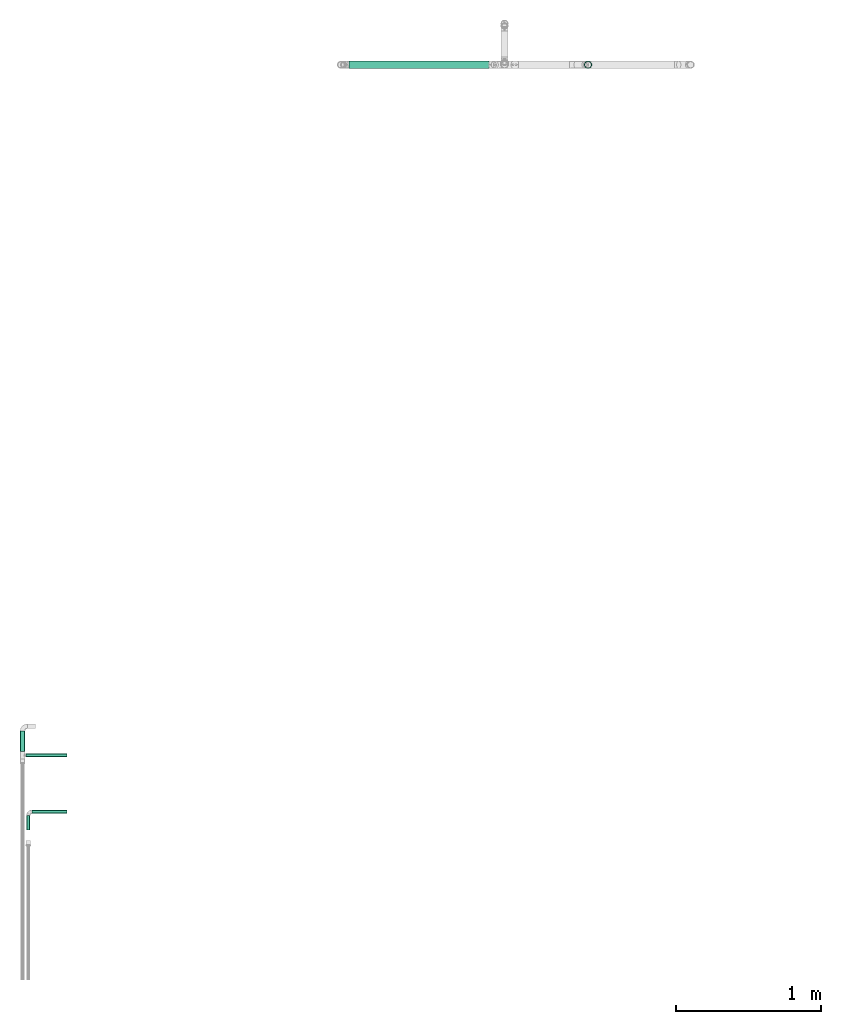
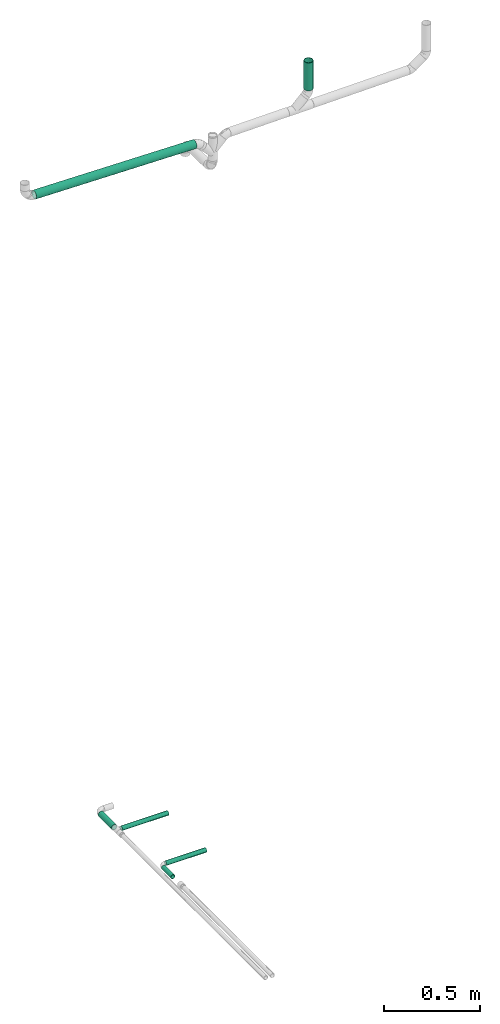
# One storey, part 1 of 13: 6 flow segments.
"""IFC2X3 building model written with IfcOpenShell, lengths in millimetres."""

from ifc_helpers import new_model, entity, si_unit, converted_unit, derived_unit, direction, frame, origin_with_axes, origin_2d_with_axis, place, context, subcontext, project, spatial, hollow_circle, extrude, source, transform, mapped, type_object, element, save


model = new_model("IFC2X3")

# Units and contexts
model_context = context("Model", 3, precision=0.01, world=frame((0.0, 4.29681676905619e-09, 0.0)), true_north=direction((4.01073788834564e-13, 1.0)))
plan_context = context("Plan", 3, precision=0.01, world=frame((0.0, 4.29681676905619e-09, 0.0)), true_north=direction((4.01073788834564e-13, 1.0)))
body_context = subcontext(model_context, "Body", "Model", "MODEL_VIEW")
ifc_project = project(units=[converted_unit("PLANEANGLEUNIT", "DEGREE", entity("IfcPositiveLengthMeasure", 0.0174532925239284), si_unit("PLANEANGLEUNIT", "RADIAN"), dimensions=[0, 0, 0, 0, 0, 0, 0]), si_unit("AREAUNIT", "SQUARE_METRE"), si_unit("LENGTHUNIT", "METRE", prefix="MILLI"), si_unit("MASSUNIT", "GRAM", prefix="KILO"), si_unit("POWERUNIT", "WATT"), si_unit("PRESSUREUNIT", "PASCAL", prefix="KILO"), si_unit("FORCEUNIT", "NEWTON", prefix="KILO"), si_unit("ELECTRICVOLTAGEUNIT", "VOLT"), si_unit("ELECTRICCURRENTUNIT", "AMPERE"), si_unit("THERMODYNAMICTEMPERATUREUNIT", "DEGREE_CELSIUS"), si_unit("TIMEUNIT", "SECOND"), si_unit("VOLUMEUNIT", "CUBIC_METRE"), derived_unit("LINEARVELOCITYUNIT", [(si_unit("LENGTHUNIT", "METRE"), 1), (si_unit("TIMEUNIT", "SECOND"), -1)]), derived_unit("VOLUMETRICFLOWRATEUNIT", [(si_unit("VOLUMEUNIT", "CUBIC_METRE"), 1), (si_unit("TIMEUNIT", "SECOND"), -1)]), derived_unit("THERMALTRANSMITTANCEUNIT", [(si_unit("POWERUNIT", "WATT"), 1), (si_unit("THERMODYNAMICTEMPERATUREUNIT", "KELVIN"), -1), (si_unit("AREAUNIT", "SQUARE_METRE"), -1)]), derived_unit("SOUNDPRESSUREUNIT", [(si_unit("PRESSUREUNIT", "PASCAL"), 1)])], contexts=[model_context, plan_context])

# Site, building, storey
site_placement = place(None, frame((0.0, -4.29681676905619e-09, 0.0), z_axis=(0.0, 0.0, 1.0), x_axis=(1.0, 0.0, 0.0)))
site = spatial("IfcSite", under=ifc_project, at=site_placement, Name="ENGM", CompositionType="ELEMENT")
building_placement = place(site_placement, frame((0.0, 4.29681676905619e-09, 0.0), z_axis=(0.0, 0.0, 1.0), x_axis=(1.0, 0.0, 0.0)))
building = spatial("IfcBuilding", under=site, at=building_placement, Name="TI", CompositionType="ELEMENT")
storey_placement = place(building_placement, frame((0.0, 0.0, 210900.0), z_axis=(0.0, 0.0, 1.0), x_axis=(1.0, 0.0, 0.0)))
storey = spatial("IfcBuildingStorey", under=building, at=storey_placement, Name="Nivå F", CompositionType="ELEMENT", Elevation=210900.0)

# Flow segments
pipe_segment_type_1 = type_object("IfcPipeSegmentType", Name="Stålrør normaltykke", PredefinedType="RIGIDSEGMENT")
shared_shape_1 = source(origin_with_axes(), body_context, "Body", "SweptSolid", [
    extrude(hollow_circle(Radius=13.3, WallThickness=2.0, at=origin_2d_with_axis()), frame((0.0, 0.0, 0.0), z_axis=(1.0, 0.0, 0.0), x_axis=(0.0, 1.0, 0.0)), (0.0, 0.0, 1.0), 241.0),
])
flow_segment_1_placement = place(storey_placement, frame((585332.97776, 570888.24678, -48.6000000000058), z_axis=(0.0, 0.0, 1.0), x_axis=(1.0, 0.0, 0.0)))
element("IfcFlowSegment", 1, at=flow_segment_1_placement, inside=storey, type_object=pipe_segment_type_1, Name="Stålrør normaltykke", context=body_context, shape_type="MappedRepresentation", body=[
    mapped(shared_shape_1, transform((0.0, 0.0, 0.0), scale=1.0)),
])
shared_shape_2 = source(origin_with_axes(), body_context, "Body", "SweptSolid", [
    extrude(hollow_circle(Radius=13.3, WallThickness=2.0, at=origin_2d_with_axis()), frame((0.0, 0.0, 0.0), z_axis=(1.0, 0.0, 0.0), x_axis=(0.0, 1.0, 0.0)), (0.0, 0.0, 1.0), 280.0),
])
flow_segment_2_placement = place(storey_placement, frame((585291.52776, 571276.94171, -48.6000000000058), z_axis=(0.0, 0.0, 1.0), x_axis=(1.0, 0.0, 0.0)))
element("IfcFlowSegment", 2, at=flow_segment_2_placement, inside=storey, type_object=pipe_segment_type_1, Name="Stålrør normaltykke", context=body_context, shape_type="MappedRepresentation", body=[
    mapped(shared_shape_2, transform((0.0, 0.0, 0.0), scale=1.0)),
])
shared_shape_3 = source(origin_with_axes(), body_context, "Body", "SweptSolid", [
    extrude(hollow_circle(Radius=16.9, WallThickness=2.0, at=origin_2d_with_axis()), frame((0.0, 0.0, 0.0), z_axis=(1.0, 0.0, 0.0), x_axis=(0.0, 1.0, 0.0)), (0.0, 0.0, 1.0), 139.4),
])
flow_segment_3_placement = place(storey_placement, frame((585266.17776, 571443.1417, -48.6000000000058), z_axis=(0.0, 0.0, 1.0), x_axis=(0.0, -1.0, 0.0)))
element("IfcFlowSegment", 3, at=flow_segment_3_placement, inside=storey, type_object=pipe_segment_type_1, Name="Stålrør normaltykke", context=body_context, shape_type="MappedRepresentation", body=[
    mapped(shared_shape_3, transform((0.0, 0.0, 0.0), scale=1.0)),
])
shared_shape_4 = source(origin_with_axes(), body_context, "Body", "SweptSolid", [
    extrude(hollow_circle(Radius=13.3, WallThickness=2.0, at=origin_2d_with_axis()), frame((0.0, 0.0, 0.0), z_axis=(1.0, 0.0, 0.0), x_axis=(0.0, 1.0, 0.0)), (0.0, 0.0, 1.0), 97.4),
])
flow_segment_4_placement = place(storey_placement, frame((585306.17776, 570764.04678, -48.6000000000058), z_axis=(0.0, 0.0, 1.0), x_axis=(0.0, 1.0, 0.0)))
element("IfcFlowSegment", 4, at=flow_segment_4_placement, inside=storey, type_object=pipe_segment_type_1, Name="Stålrør normaltykke", context=body_context, shape_type="MappedRepresentation", body=[
    mapped(shared_shape_4, transform((0.0, 0.0, 0.0), scale=1.0)),
])
pipe_segment_type_2 = type_object("IfcPipeSegmentType", Name="PP avløpsrør", PredefinedType="RIGIDSEGMENT")
shared_shape_5 = source(origin_with_axes(), body_context, "Body", "SweptSolid", [
    extrude(hollow_circle(Radius=25.0, WallThickness=2.0, at=origin_2d_with_axis()), frame((0.0, 0.0, 0.0), z_axis=(1.0, 0.0, 0.0), x_axis=(0.0, 1.0, 0.0)), (0.0, 0.0, 1.0), 177.4),
])
flow_segment_5_placement = place(storey_placement, frame((589159.77905, 576030.74709, 405.760849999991), z_axis=(0.0, 1.0, 0.0), x_axis=(0.0, 0.0, 1.0)))
element("IfcFlowSegment", 5, at=flow_segment_5_placement, inside=storey, type_object=pipe_segment_type_2, Name="PP avløpsrør", context=body_context, shape_type="MappedRepresentation", body=[
    mapped(shared_shape_5, transform((0.0, 0.0, 0.0), scale=1.0)),
])
shared_shape_6 = source(origin_with_axes(), body_context, "Body", "SweptSolid", [
    extrude(hollow_circle(Radius=25.0, WallThickness=2.0, at=origin_2d_with_axis()), frame((0.0, 0.0, 0.0), z_axis=(1.0, 0.0, 0.0), x_axis=(0.0, 1.0, 0.0)), (0.0, 0.0, 1.0), 962.3),
])
flow_segment_6_placement = place(storey_placement, frame((587514.37871, 576030.74709, 307.038490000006), z_axis=(0.0166640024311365, 0.0, 0.999861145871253), x_axis=(0.999861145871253, 0.0, -0.0166640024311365)))
element("IfcFlowSegment", 6, at=flow_segment_6_placement, inside=storey, type_object=pipe_segment_type_2, Name="PP avløpsrør", context=body_context, shape_type="MappedRepresentation", body=[
    mapped(shared_shape_6, transform((0.0, 0.0, 0.0), scale=1.0)),
])

save(model, "model.ifc")
